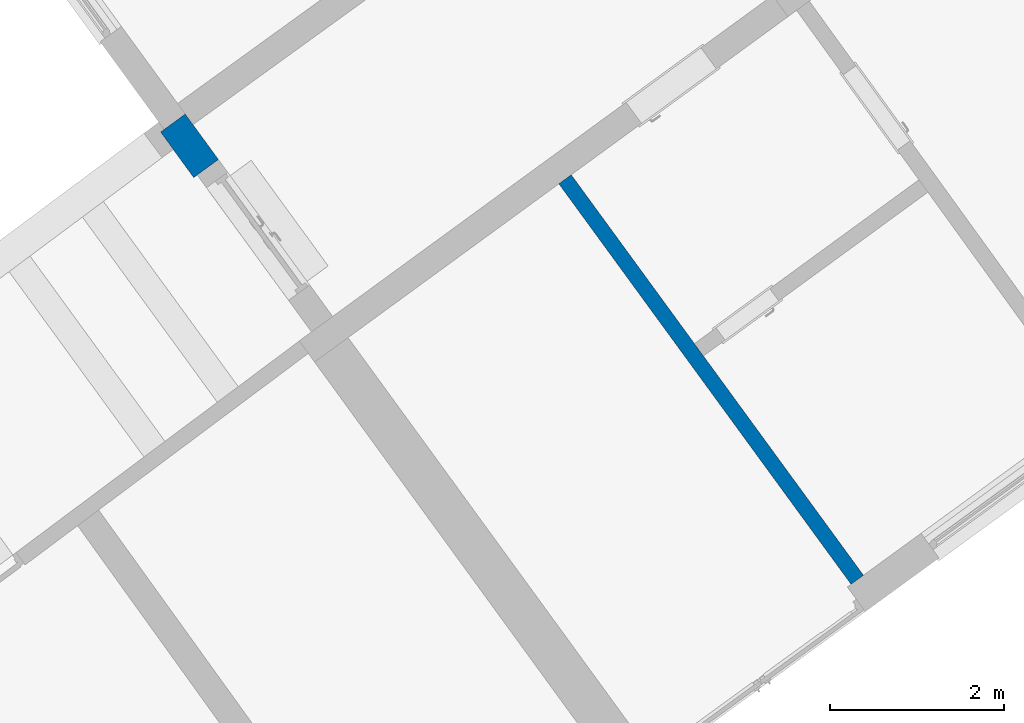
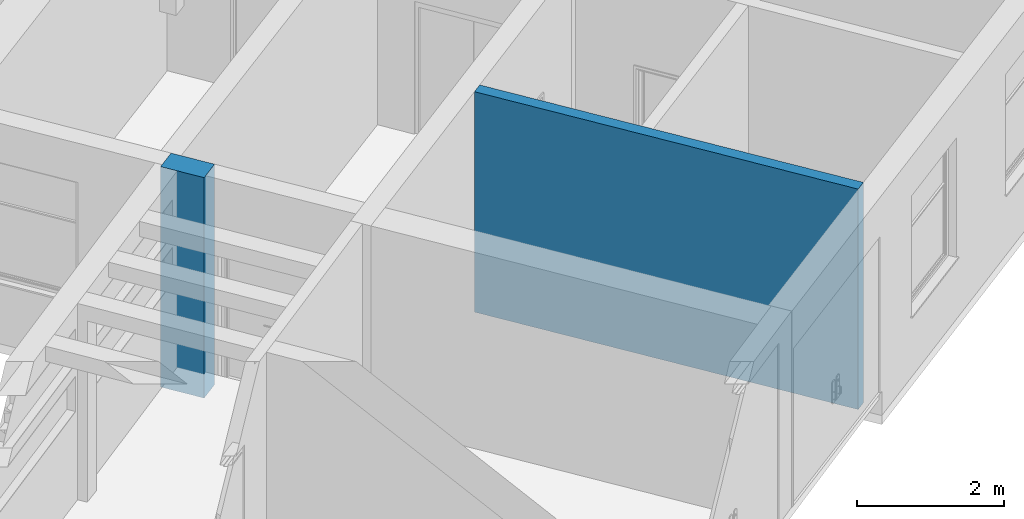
# One storey, part 100 of 157: 2 walls.
"""IFC2X3 building model written with IfcOpenShell, lengths in millimetres."""

from ifc_helpers import new_model, entity, si_unit, converted_unit, derived_unit, direction, frame, frame_2d, origin, place, context, subcontext, project, spatial, polyline, rectangle, outline, extrude, material, layer, layer_set, layer_usage, type_object, element, save


model = new_model("IFC2X3")

# Units and contexts
model_context = context("Model", 3, precision=0.01, world=origin(), true_north=direction((6.123031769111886e-17, 1.0)))
body_context = subcontext(model_context, "Body", "Model", "MODEL_VIEW")
ifc_project = project(units=[si_unit("LENGTHUNIT", "METRE", prefix="MILLI"), si_unit("AREAUNIT", "SQUARE_METRE"), si_unit("VOLUMEUNIT", "CUBIC_METRE"), converted_unit("PLANEANGLEUNIT", "DEGREE", entity("IfcRatioMeasure", 0.017453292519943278), si_unit("PLANEANGLEUNIT", "RADIAN"), dimensions=[0, 0, 0, 0, 0, 0, 0]), si_unit("MASSUNIT", "GRAM", prefix="KILO"), derived_unit("MASSDENSITYUNIT", [(si_unit("MASSUNIT", "GRAM", prefix="KILO"), 1), (si_unit("LENGTHUNIT", "METRE"), -3)]), derived_unit("MOMENTOFINERTIAUNIT", [(si_unit("LENGTHUNIT", "METRE"), 4)]), si_unit("TIMEUNIT", "SECOND"), si_unit("FREQUENCYUNIT", "HERTZ"), si_unit("THERMODYNAMICTEMPERATUREUNIT", "DEGREE_CELSIUS"), derived_unit("THERMALTRANSMITTANCEUNIT", [(si_unit("MASSUNIT", "GRAM", prefix="KILO"), 1), (si_unit("THERMODYNAMICTEMPERATUREUNIT", "KELVIN"), -1), (si_unit("TIMEUNIT", "SECOND"), -3)]), derived_unit("THERMALCONDUCTANCEUNIT", [(si_unit("MASSUNIT", "GRAM", prefix="KILO"), 1), (si_unit("LENGTHUNIT", "METRE"), 1), (si_unit("THERMODYNAMICTEMPERATUREUNIT", "KELVIN"), -1), (si_unit("TIMEUNIT", "SECOND"), -3)]), derived_unit("VOLUMETRICFLOWRATEUNIT", [(si_unit("LENGTHUNIT", "METRE"), 3), (si_unit("TIMEUNIT", "SECOND"), -1)]), derived_unit("MASSFLOWRATEUNIT", [(si_unit("MASSUNIT", "GRAM", prefix="KILO"), 1), (si_unit("TIMEUNIT", "SECOND"), -1)]), derived_unit("ROTATIONALFREQUENCYUNIT", [(si_unit("TIMEUNIT", "SECOND"), -1)]), si_unit("ELECTRICCURRENTUNIT", "AMPERE"), si_unit("ELECTRICVOLTAGEUNIT", "VOLT"), si_unit("POWERUNIT", "WATT"), converted_unit("FORCEUNIT", "KIP", entity("IfcRatioMeasure", 2.088543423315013e-05), si_unit("FORCEUNIT", "NEWTON"), dimensions=[1, 1, -2, 0, 0, 0, 0]), si_unit("ILLUMINANCEUNIT", "LUX"), si_unit("LUMINOUSFLUXUNIT", "LUMEN"), si_unit("LUMINOUSINTENSITYUNIT", "CANDELA"), derived_unit("USERDEFINED", [(si_unit("MASSUNIT", "GRAM", prefix="KILO"), -1), (si_unit("LENGTHUNIT", "METRE"), -2), (si_unit("TIMEUNIT", "SECOND"), 3), (si_unit("LUMINOUSFLUXUNIT", "LUMEN"), 1)]), derived_unit("USERDEFINED", [(si_unit("MASSUNIT", "GRAM", prefix="KILO"), 1), (si_unit("LENGTHUNIT", "METRE"), 3), (si_unit("TIMEUNIT", "SECOND"), -3), (si_unit("ELECTRICCURRENTUNIT", "AMPERE"), -2)]), derived_unit("USERDEFINED", [(si_unit("LENGTHUNIT", "METRE"), 2), (si_unit("TIMEUNIT", "SECOND"), -2)]), derived_unit("SOUNDPOWERUNIT", [(si_unit("MASSUNIT", "GRAM", prefix="KILO"), 1), (si_unit("LENGTHUNIT", "METRE"), 2), (si_unit("TIMEUNIT", "SECOND"), -3)]), derived_unit("SOUNDPRESSUREUNIT", [(si_unit("MASSUNIT", "GRAM", prefix="KILO"), 1), (si_unit("LENGTHUNIT", "METRE"), -1), (si_unit("TIMEUNIT", "SECOND"), -2)]), derived_unit("LINEARVELOCITYUNIT", [(si_unit("LENGTHUNIT", "METRE"), 1), (si_unit("TIMEUNIT", "SECOND"), -1)]), si_unit("PRESSUREUNIT", "PASCAL"), derived_unit("USERDEFINED", [(si_unit("LENGTHUNIT", "METRE"), -2), (si_unit("MASSUNIT", "GRAM", prefix="KILO"), 1), (si_unit("TIMEUNIT", "SECOND"), -2)]), derived_unit("LINEARFORCEUNIT", [(si_unit("MASSUNIT", "GRAM", prefix="KILO"), 1), (si_unit("LENGTHUNIT", "METRE"), 1), (si_unit("TIMEUNIT", "SECOND"), -2), (si_unit("LENGTHUNIT", "METRE"), -1)]), derived_unit("PLANARFORCEUNIT", [(si_unit("MASSUNIT", "GRAM", prefix="KILO"), 1), (si_unit("LENGTHUNIT", "METRE"), 1), (si_unit("TIMEUNIT", "SECOND"), -2), (si_unit("LENGTHUNIT", "METRE"), -2)]), derived_unit("SPECIFICHEATCAPACITYUNIT", [(si_unit("LENGTHUNIT", "METRE"), 2), (si_unit("TIMEUNIT", "SECOND"), -2), (si_unit("THERMODYNAMICTEMPERATUREUNIT", "KELVIN"), -1)]), derived_unit("VAPORPERMEABILITYUNIT", [(si_unit("TIMEUNIT", "SECOND"), 1), (si_unit("LENGTHUNIT", "METRE"), -1)]), derived_unit("DYNAMICVISCOSITYUNIT", [(si_unit("MASSUNIT", "GRAM", prefix="KILO"), 1), (si_unit("LENGTHUNIT", "METRE"), -1), (si_unit("TIMEUNIT", "SECOND"), -1)]), derived_unit("THERMALEXPANSIONCOEFFICIENTUNIT", [(si_unit("THERMODYNAMICTEMPERATUREUNIT", "KELVIN"), -1)])], contexts=[model_context])

# Site, building, storey
site_placement = place(None, frame((0.0, 0.0, 0.0), z_axis=(0.0, 0.0, 1.0), x_axis=(0.8191520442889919, 0.5735764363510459, 0.0)))
site = spatial("IfcSite", under=ifc_project, at=site_placement, Name="Default", CompositionType="ELEMENT")
building_placement = place(site_placement, origin())
building = spatial("IfcBuilding", under=site, at=building_placement, CompositionType="ELEMENT")
storey_placement = place(building_placement, origin())
storey = spatial("IfcBuildingStorey", under=building, at=storey_placement, Name="1.EG +0.00", CompositionType="ELEMENT", Elevation=-4.331468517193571e-12)

# Walls
ifc_material = material(Name="Analytical Wall Surface_CJC")
ifc_layer_1 = layer(ifc_material, 350.0)
ifc_layer_set_1 = layer_set([ifc_layer_1], Name="Basic Wall:Wand_Innen_35")
ifc_layer_usage_1 = layer_usage(ifc_layer_set_1, "AXIS2", "NEGATIVE", 175.0)
wall_type_1 = type_object("IfcWallType", Name="Basic Wall:Wand_Innen_35", PredefinedType="STANDARD", material=ifc_layer_set_1)
wall_1_placement = place(storey_placement, frame((-190988.65127355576, 166801.86784216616, -1150.0), z_axis=(0.0, 0.0, 1.0), x_axis=(-0.018539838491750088, 0.9998281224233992, 0.0)))
element("IfcWallStandardCase", 1, at=wall_1_placement, inside=storey, type_object=wall_type_1, material=ifc_layer_usage_1, Name="Basic Wall:Wand_Innen_35", ObjectType="Basic Wall:Wand_Innen_35", context=body_context, shape_type="SweptSolid", body=[
    extrude(rectangle(XDim=646.7807216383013, YDim=350.00000000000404, at=frame_2d((323.39036081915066, -3.907985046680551e-12), x_axis=(-1.0, 0.0))), origin(), (0.0, 0.0, 1.0), 3650.0000000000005),
])
ifc_layer_2 = layer(ifc_material, 175.0)
ifc_layer_set_2 = layer_set([ifc_layer_2], Name="Basic Wall:Wand_Innen_17.5")
ifc_layer_usage_2 = layer_usage(ifc_layer_set_2, "AXIS2", "NEGATIVE", 87.5)
wall_type_2 = type_object("IfcWallType", Name="Basic Wall:Wand_Innen_17.5", PredefinedType="STANDARD", material=ifc_layer_set_2)
wall_2_placement = place(storey_placement, frame((-187572.145673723, 158645.6572417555, -1150.0), z_axis=(0.0, 0.0, 1.0), x_axis=(-0.019508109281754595, 0.9998096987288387, 0.0)))
element("IfcWallStandardCase", 2, at=wall_2_placement, inside=storey, type_object=wall_type_2, material=ifc_layer_usage_2, Name="Basic Wall:Wand_Innen_17.5", ObjectType="Basic Wall:Wand_Innen_17.5", context=body_context, shape_type="SweptSolid", body=[
    extrude(outline(polyline([(5692.390327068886, -87.49999999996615), (5692.390327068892, 87.50000000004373), (0.18949729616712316, 87.50000000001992), (0.0, -87.50000000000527), (3117.3903270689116, -87.49999999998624), (3292.3903270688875, -87.49999999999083), (5692.390327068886, -87.49999999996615)])), origin(), (0.0, 0.0, 1.0), 3650.0000000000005),
])

save(model, "model.ifc")
